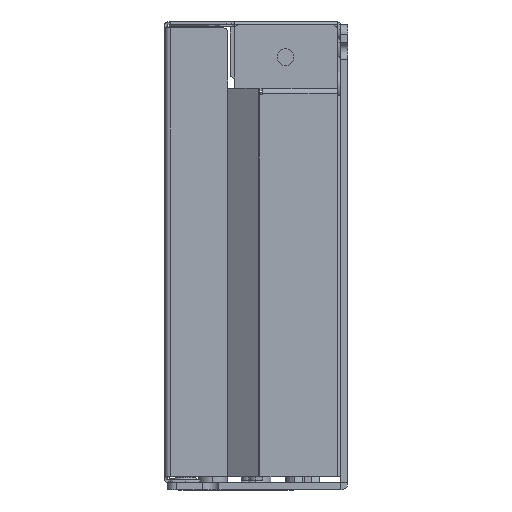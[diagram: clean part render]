
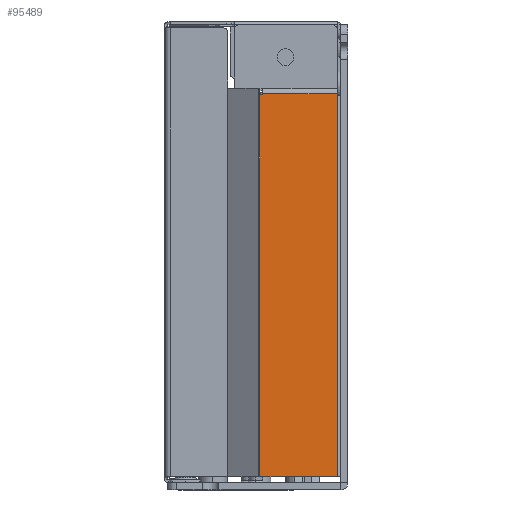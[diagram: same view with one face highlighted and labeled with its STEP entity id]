
A CAD part, left-side view. The second image highlights one B-rep face of the part: STEP entity #95489.
In plain terms, the highlighted planar face has unit normal (-1, 0, 0).
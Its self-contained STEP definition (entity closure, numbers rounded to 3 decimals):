
#42496=DIRECTION('',(0.,0.,1.));
#42497=VECTOR('',#42496,16.173);
#42498=CARTESIAN_POINT('',(-38.45,46.45,-35.9));
#42499=LINE('',#42498,#42497);
#42503=CARTESIAN_POINT('',(-38.45,-33.15,-20.027));
#42504=DIRECTION('',(-1.,0.,0.));
#42505=DIRECTION('',(0.,0.667,0.745));
#42506=AXIS2_PLACEMENT_3D('',#42503,#42504,#42505);
#42511=DIRECTION('',(0.,0.,-1.));
#42512=VECTOR('',#42511,0.1);
#42513=CARTESIAN_POINT('',(-38.45,-32.65,-35.8));
#42514=LINE('',#42513,#42512);
#42518=DIRECTION('',(0.,-1.,0.));
#42519=VECTOR('',#42518,79.1);
#42520=CARTESIAN_POINT('',(-38.45,46.45,-35.9));
#42521=LINE('',#42520,#42519);
#42836=DIRECTION('',(0.,-1.,0.));
#42837=VECTOR('',#42836,0.3);
#42838=CARTESIAN_POINT('',(-38.45,-32.65,-35.8));
#42839=LINE('',#42838,#42837);
#42873=DIRECTION('',(0.,0.,1.));
#42874=VECTOR('',#42873,15.549);
#42875=CARTESIAN_POINT('',(-38.45,-32.95,-35.8));
#42876=LINE('',#42875,#42874);
#43286=DIRECTION('',(0.,0.,1.));
#43287=VECTOR('',#43286,0.076);
#43288=CARTESIAN_POINT('',(-38.45,-32.95,-19.803));
#43289=LINE('',#43288,#43287);
#43357=DIRECTION('',(0.,1.,0.));
#43358=VECTOR('',#43357,79.4);
#43359=CARTESIAN_POINT('',(-38.45,-32.95,-19.727));
#43360=LINE('',#43359,#43358);
#87623=CARTESIAN_POINT('',(-38.45,46.45,-35.9));
#87624=CARTESIAN_POINT('',(-38.45,-32.65,-35.9));
#87625=VERTEX_POINT('',#87623);
#87626=VERTEX_POINT('',#87624);
#87627=CARTESIAN_POINT('',(-38.45,46.45,-19.727));
#87628=VERTEX_POINT('',#87627);
#87629=CARTESIAN_POINT('',(-38.45,-32.95,-19.727));
#87630=VERTEX_POINT('',#87629);
#87631=CARTESIAN_POINT('',(-38.45,-32.95,-19.803));
#87632=VERTEX_POINT('',#87631);
#87633=CARTESIAN_POINT('',(-38.45,-32.95,-20.251));
#87634=VERTEX_POINT('',#87633);
#87635=CARTESIAN_POINT('',(-38.45,-32.95,-35.8));
#87636=VERTEX_POINT('',#87635);
#87637=CARTESIAN_POINT('',(-38.45,-32.65,-35.8));
#87638=VERTEX_POINT('',#87637);
#95466=CARTESIAN_POINT('',(-38.45,-46.65,-19.727));
#95467=DIRECTION('',(1.,0.,0.));
#95468=DIRECTION('',(0.,0.,-1.));
#95469=AXIS2_PLACEMENT_3D('',#95466,#95467,#95468);
#95470=PLANE('',#95469);
#95472=ORIENTED_EDGE('',*,*,#95471,.F.);
#95474=ORIENTED_EDGE('',*,*,#95473,.T.);
#95476=ORIENTED_EDGE('',*,*,#95475,.F.);
#95478=ORIENTED_EDGE('',*,*,#95477,.F.);
#95480=ORIENTED_EDGE('',*,*,#95479,.T.);
#95482=ORIENTED_EDGE('',*,*,#95481,.F.);
#95484=ORIENTED_EDGE('',*,*,#95483,.F.);
#95486=ORIENTED_EDGE('',*,*,#95485,.T.);
#95487=EDGE_LOOP('',(#95472,#95474,#95476,#95478,#95480,#95482,#95484,#95486));
#95488=FACE_OUTER_BOUND('',#95487,.F.);
#42507=CIRCLE('',#42506,0.3);
#95471=EDGE_CURVE('',#87625,#87626,#42521,.T.);
#95473=EDGE_CURVE('',#87625,#87628,#42499,.T.);
#95475=EDGE_CURVE('',#87630,#87628,#43360,.T.);
#95477=EDGE_CURVE('',#87632,#87630,#43289,.T.);
#95479=EDGE_CURVE('',#87632,#87634,#42507,.T.);
#95481=EDGE_CURVE('',#87636,#87634,#42876,.T.);
#95483=EDGE_CURVE('',#87638,#87636,#42839,.T.);
#95485=EDGE_CURVE('',#87638,#87626,#42514,.T.);
#95489=ADVANCED_FACE('',(#95488),#95470,.F.);
